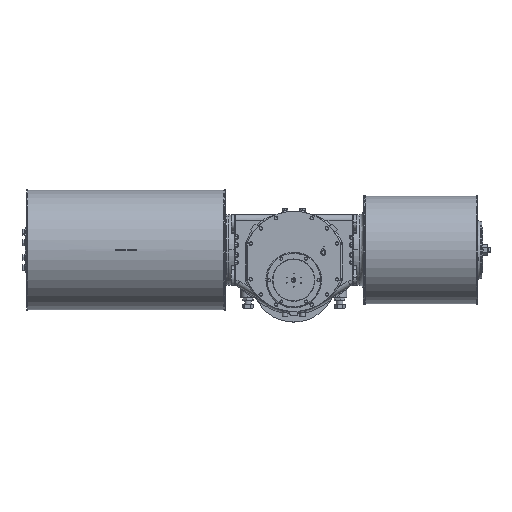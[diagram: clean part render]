
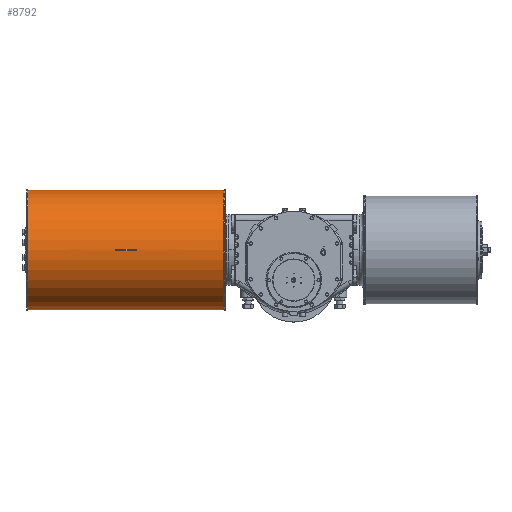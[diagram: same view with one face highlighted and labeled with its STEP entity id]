
A CAD part, top view. The second image highlights one B-rep face of the part: STEP entity #8792.
In plain terms, the highlighted cylindrical face has radius 340 mm (diameter 680 mm), a partial arc.
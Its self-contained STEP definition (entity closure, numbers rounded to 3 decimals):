
#950 = CIRCLE ( 'NONE', #57195, 340. ) ;
#8792 = ADVANCED_FACE ( 'NONE', ( #53956, #46742 ), #82396, .T. ) ;
#10774 = CARTESIAN_POINT ( 'NONE',  ( -892., 176., 477.963 ) ) ;
#11124 = DIRECTION ( 'NONE',  ( 1., 0., 0. ) ) ;
#11375 = DIRECTION ( 'NONE',  ( 0., -1., 0. ) ) ;
#13916 = ORIENTED_EDGE ( 'NONE', *, *, #28320, .T. ) ;
#14376 = DIRECTION ( 'NONE',  ( 0., 1., 0. ) ) ;
#14523 = DIRECTION ( 'NONE',  ( 1., 0., 0. ) ) ;
#16407 = CARTESIAN_POINT ( 'NONE',  ( -395.885, 171., 138. ) ) ;
#16998 = AXIS2_PLACEMENT_3D ( 'NONE', #16407, #44825, #77804 ) ;
#17531 = EDGE_CURVE ( 'NONE', #58550, #81468, #61905, .T. ) ;
#18147 = DIRECTION ( 'NONE',  ( 1., 0., 0. ) ) ;
#20414 = CARTESIAN_POINT ( 'NONE',  ( -1502., 166., 477.963 ) ) ;
#21157 = DIRECTION ( 'NONE',  ( 1., 0., 0. ) ) ;
#22243 = VERTEX_POINT ( 'NONE', #63997 ) ;
#24189 = DIRECTION ( 'NONE',  ( -1., 0., 0. ) ) ;
#25712 = EDGE_CURVE ( 'NONE', #64990, #81468, #88523, .T. ) ;
#26443 = CARTESIAN_POINT ( 'NONE',  ( -1502., 176., 477.963 ) ) ;
#26865 = DIRECTION ( 'NONE',  ( 0., 1., 0. ) ) ;
#27096 = CIRCLE ( 'NONE', #70360, 340. ) ;
#28320 = EDGE_CURVE ( 'NONE', #64330, #56547, #950, .T. ) ;
#29231 = CIRCLE ( 'NONE', #78211, 340. ) ;
#29839 = EDGE_CURVE ( 'NONE', #50567, #76454, #87605, .T. ) ;
#30090 = CARTESIAN_POINT ( 'NONE',  ( -892., 171., 138. ) ) ;
#31025 = ORIENTED_EDGE ( 'NONE', *, *, #40655, .T. ) ;
#31866 = DIRECTION ( 'NONE',  ( 0., -1., 0. ) ) ;
#33203 = DIRECTION ( 'NONE',  ( 1., 0., 0. ) ) ;
#34101 = AXIS2_PLACEMENT_3D ( 'NONE', #48510, #33203, #26865 ) ;
#35472 = VECTOR ( 'NONE', #57695, 1000. ) ;
#36484 = CARTESIAN_POINT ( 'NONE',  ( -1508.115, 171., 138. ) ) ;
#37090 = ORIENTED_EDGE ( 'NONE', *, *, #29839, .T. ) ;
#38203 = ORIENTED_EDGE ( 'NONE', *, *, #60870, .T. ) ;
#38261 = ORIENTED_EDGE ( 'NONE', *, *, #50944, .F. ) ;
#40655 = EDGE_CURVE ( 'NONE', #56547, #50567, #77159, .T. ) ;
#42842 = ORIENTED_EDGE ( 'NONE', *, *, #52407, .T. ) ;
#44008 = CIRCLE ( 'NONE', #59855, 340. ) ;
#44487 = ORIENTED_EDGE ( 'NONE', *, *, #88242, .T. ) ;
#44825 = DIRECTION ( 'NONE',  ( -1., 0., 0. ) ) ;
#46742 = FACE_OUTER_BOUND ( 'NONE', #71258, .T. ) ;
#48510 = CARTESIAN_POINT ( 'NONE',  ( -1502., 171., 138. ) ) ;
#49298 = VECTOR ( 'NONE', #67530, 1000. ) ;
#49421 = CARTESIAN_POINT ( 'NONE',  ( -395.885, -169., 138. ) ) ;
#50567 = VERTEX_POINT ( 'NONE', #49421 ) ;
#50944 = EDGE_CURVE ( 'NONE', #64330, #76454, #86561, .T. ) ;
#52407 = EDGE_CURVE ( 'NONE', #58550, #63522, #44008, .T. ) ;
#52446 = CARTESIAN_POINT ( 'NONE',  ( -892., 171., 138. ) ) ;
#53956 = FACE_BOUND ( 'NONE', #88958, .T. ) ;
#56547 = VERTEX_POINT ( 'NONE', #83141 ) ;
#57195 = AXIS2_PLACEMENT_3D ( 'NONE', #36484, #21157, #14376 ) ;
#57240 = VERTEX_POINT ( 'NONE', #10774 ) ;
#57695 = DIRECTION ( 'NONE',  ( 1., 0., 0. ) ) ;
#58351 = ORIENTED_EDGE ( 'NONE', *, *, #17531, .F. ) ;
#58550 = VERTEX_POINT ( 'NONE', #84110 ) ;
#59413 = LINE ( 'NONE', #26443, #49298 ) ;
#59855 = AXIS2_PLACEMENT_3D ( 'NONE', #72038, #24189, #72496 ) ;
#60481 = DIRECTION ( 'NONE',  ( 0., 0., 1. ) ) ;
#60870 = EDGE_CURVE ( 'NONE', #22243, #57240, #59413, .T. ) ;
#60947 = DIRECTION ( 'NONE',  ( -1., 0., 0. ) ) ;
#61905 = LINE ( 'NONE', #20414, #71755 ) ;
#62917 = ORIENTED_EDGE ( 'NONE', *, *, #66295, .T. ) ;
#63522 = VERTEX_POINT ( 'NONE', #67890 ) ;
#63997 = CARTESIAN_POINT ( 'NONE',  ( -1012., 176., 477.963 ) ) ;
#64330 = VERTEX_POINT ( 'NONE', #65845 ) ;
#64990 = VERTEX_POINT ( 'NONE', #82406 ) ;
#65449 = AXIS2_PLACEMENT_3D ( 'NONE', #30090, #11124, #31866 ) ;
#65845 = CARTESIAN_POINT ( 'NONE',  ( -1508.115, 511., 138. ) ) ;
#66098 = CARTESIAN_POINT ( 'NONE',  ( -892., 166., 477.963 ) ) ;
#66295 = EDGE_CURVE ( 'NONE', #57240, #64990, #29231, .T. ) ;
#66841 = VECTOR ( 'NONE', #71690, 1000. ) ;
#67530 = DIRECTION ( 'NONE',  ( 1., 0., 0. ) ) ;
#67890 = CARTESIAN_POINT ( 'NONE',  ( -1012., 171., 478. ) ) ;
#70360 = AXIS2_PLACEMENT_3D ( 'NONE', #73170, #60947, #60481 ) ;
#71258 = EDGE_LOOP ( 'NONE', ( #13916, #31025, #37090, #38261 ) ) ;
#71690 = DIRECTION ( 'NONE',  ( 1., 0., 0. ) ) ;
#71755 = VECTOR ( 'NONE', #14523, 1000. ) ;
#72038 = CARTESIAN_POINT ( 'NONE',  ( -1012., 171., 138. ) ) ;
#72496 = DIRECTION ( 'NONE',  ( 0., 0., 1. ) ) ;
#73170 = CARTESIAN_POINT ( 'NONE',  ( -1012., 171., 138. ) ) ;
#76454 = VERTEX_POINT ( 'NONE', #85387 ) ;
#77159 = LINE ( 'NONE', #84370, #35472 ) ;
#77804 = DIRECTION ( 'NONE',  ( 0., 1., 0. ) ) ;
#78211 = AXIS2_PLACEMENT_3D ( 'NONE', #52446, #18147, #11375 ) ;
#78468 = CARTESIAN_POINT ( 'NONE',  ( -1502., 511., 138. ) ) ;
#81468 = VERTEX_POINT ( 'NONE', #66098 ) ;
#82396 = CYLINDRICAL_SURFACE ( 'NONE', #34101, 340. ) ;
#82406 = CARTESIAN_POINT ( 'NONE',  ( -892., 171., 478. ) ) ;
#83141 = CARTESIAN_POINT ( 'NONE',  ( -1508.115, -169., 138. ) ) ;
#83752 = ORIENTED_EDGE ( 'NONE', *, *, #25712, .T. ) ;
#84110 = CARTESIAN_POINT ( 'NONE',  ( -1012., 166., 477.963 ) ) ;
#84370 = CARTESIAN_POINT ( 'NONE',  ( -1502., -169., 138. ) ) ;
#85387 = CARTESIAN_POINT ( 'NONE',  ( -395.885, 511., 138. ) ) ;
#86561 = LINE ( 'NONE', #78468, #66841 ) ;
#87605 = CIRCLE ( 'NONE', #16998, 340. ) ;
#88242 = EDGE_CURVE ( 'NONE', #63522, #22243, #27096, .T. ) ;
#88523 = CIRCLE ( 'NONE', #65449, 340. ) ;
#88958 = EDGE_LOOP ( 'NONE', ( #42842, #44487, #38203, #62917, #83752, #58351 ) ) ;
